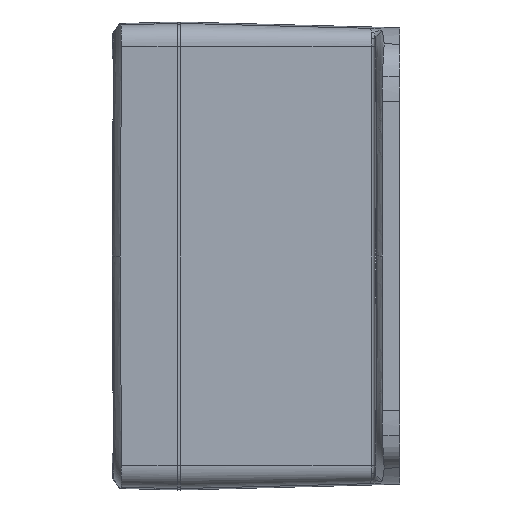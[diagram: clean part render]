
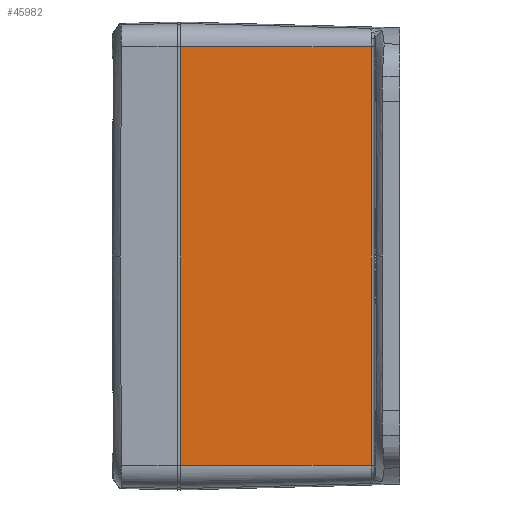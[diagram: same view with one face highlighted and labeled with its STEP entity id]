
A CAD part, left-side view. The second image highlights one B-rep face of the part: STEP entity #45982.
In plain terms, the highlighted planar face has unit normal (-1, -0.026, 0).
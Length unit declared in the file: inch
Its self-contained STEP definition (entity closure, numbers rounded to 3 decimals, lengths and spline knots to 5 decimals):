
#1405 = VERTEX_POINT ( 'NONE', #130863 ) ;
#4526 = VERTEX_POINT ( 'NONE', #104723 ) ;
#8337 = CARTESIAN_POINT ( 'NONE',  ( -3.375, 2.34, 2.23495 ) ) ;
#9615 = DIRECTION ( 'NONE',  ( 0., 0., 1. ) ) ;
#14145 = DIRECTION ( 'NONE',  ( 0.026, -1., 0. ) ) ;
#18988 = EDGE_CURVE ( 'NONE', #1405, #64998, #32698, .T. ) ;
#20128 = EDGE_CURVE ( 'NONE', #1405, #61475, #104494, .T. ) ;
#23036 = CARTESIAN_POINT ( 'NONE',  ( -3.375, 2.34, 2.23495 ) ) ;
#28336 = CARTESIAN_POINT ( 'NONE',  ( -3.375, 2.34, -2.23495 ) ) ;
#32698 = LINE ( 'NONE', #47771, #44213 ) ;
#42338 = ORIENTED_EDGE ( 'NONE', *, *, #20128, .F. ) ;
#44213 = VECTOR ( 'NONE', #133743, 39.37008 ) ;
#45982 = ADVANCED_FACE ( 'Face2', ( #57584 ), #130309, .T. ) ;
#45992 = ORIENTED_EDGE ( 'NONE', *, *, #18988, .T. ) ;
#47771 = CARTESIAN_POINT ( 'NONE',  ( -3.375, 2.34, -2.23495 ) ) ;
#53985 = LINE ( 'NONE', #169133, #111830 ) ;
#56636 = DIRECTION ( 'NONE',  ( -1., -0.026, 0. ) ) ;
#57584 = FACE_OUTER_BOUND ( 'NONE', #136361, .T. ) ;
#61475 = VERTEX_POINT ( 'NONE', #23036 ) ;
#64241 = VECTOR ( 'NONE', #164795, 39.37008 ) ;
#64998 = VERTEX_POINT ( 'NONE', #174965 ) ;
#66674 = AXIS2_PLACEMENT_3D ( 'NONE', #28336, #56636, #14145 ) ;
#71483 = EDGE_CURVE ( 'NONE', #64998, #4526, #53985, .T. ) ;
#104494 = LINE ( 'NONE', #150645, #64241 ) ;
#104723 = CARTESIAN_POINT ( 'NONE',  ( -3.32167, 0.3034, 2.23495 ) ) ;
#111830 = VECTOR ( 'NONE', #9615, 39.37008 ) ;
#111978 = ORIENTED_EDGE ( 'NONE', *, *, #71483, .T. ) ;
#121687 = LINE ( 'NONE', #8337, #123658 ) ;
#123658 = VECTOR ( 'NONE', #167850, 39.37008 ) ;
#130309 = PLANE ( 'NONE',  #66674 ) ;
#130863 = CARTESIAN_POINT ( 'NONE',  ( -3.375, 2.34, -2.23495 ) ) ;
#133743 = DIRECTION ( 'NONE',  ( 0.026, -1., 0. ) ) ;
#136361 = EDGE_LOOP ( 'NONE', ( #45992, #111978, #182094, #42338 ) ) ;
#150645 = CARTESIAN_POINT ( 'NONE',  ( -3.375, 2.34, -2.23495 ) ) ;
#164795 = DIRECTION ( 'NONE',  ( 0., 0., 1. ) ) ;
#167850 = DIRECTION ( 'NONE',  ( 0.026, -1., 0. ) ) ;
#169133 = CARTESIAN_POINT ( 'NONE',  ( -3.32167, 0.3034, -2.23495 ) ) ;
#174965 = CARTESIAN_POINT ( 'NONE',  ( -3.32167, 0.3034, -2.23495 ) ) ;
#182094 = ORIENTED_EDGE ( 'NONE', *, *, #186054, .F. ) ;
#186054 = EDGE_CURVE ( 'NONE', #61475, #4526, #121687, .T. ) ;
